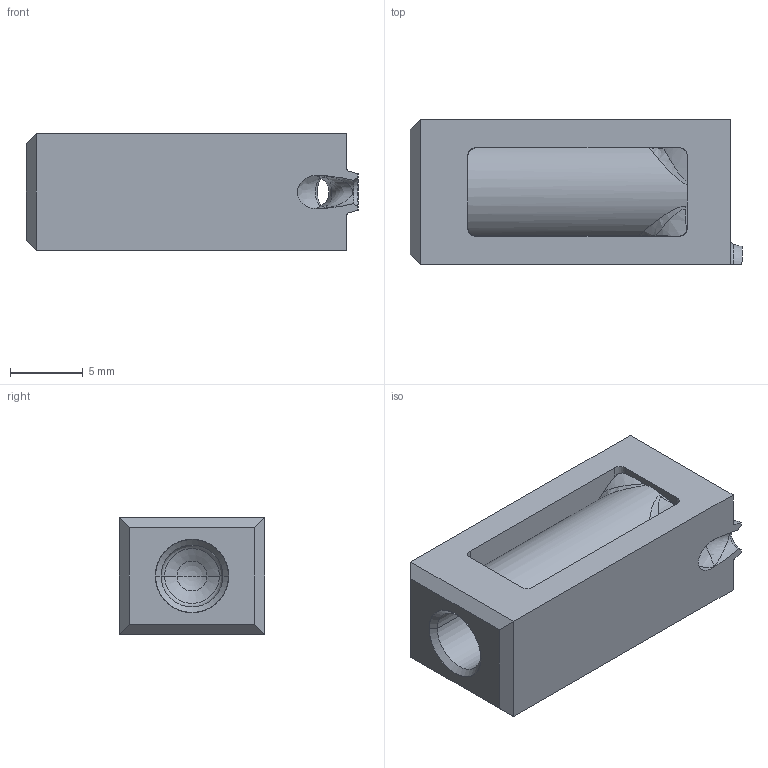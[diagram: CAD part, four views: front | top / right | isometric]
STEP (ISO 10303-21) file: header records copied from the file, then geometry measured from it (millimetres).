
FILE_DESCRIPTION((''),'2;1');
FILE_NAME('TGS10-16-S2','2004-03-24T',('tmeister'),(''),'PRO/ENGINEER BY PARAMETRIC TECHNOLOGY CORPORATION, 2002270','PRO/ENGINEER BY PARAMETRIC TECHNOLOGY CORPORATION, 2002270','');
FILE_SCHEMA(('CONFIG_CONTROL_DESIGN'));
Length unit declared in the file: millimetre
Products named in the file (1): TGS10-16-S2
Bounding box: 22.8 x 10 x 8 mm (x, y, z)
Volume: 1315.6 mm3; surface area: 1564.9 mm2
Topology: 1 solids, 2 shells, 71 faces, 251 edges, 182 vertices
Faces by surface type: plane 21, bspline 20, cone 14, cylinder 10, sphere 3, torus 3
Entity records: 5037 total; most frequent: CARTESIAN_POINT 3242, ORIENTED_EDGE 354, DIRECTION 281, EDGE_CURVE 179, B_SPLINE_CURVE_WITH_KNOTS 115, VERTEX_POINT 113, AXIS2_PLACEMENT_3D 97, VECTOR 87
